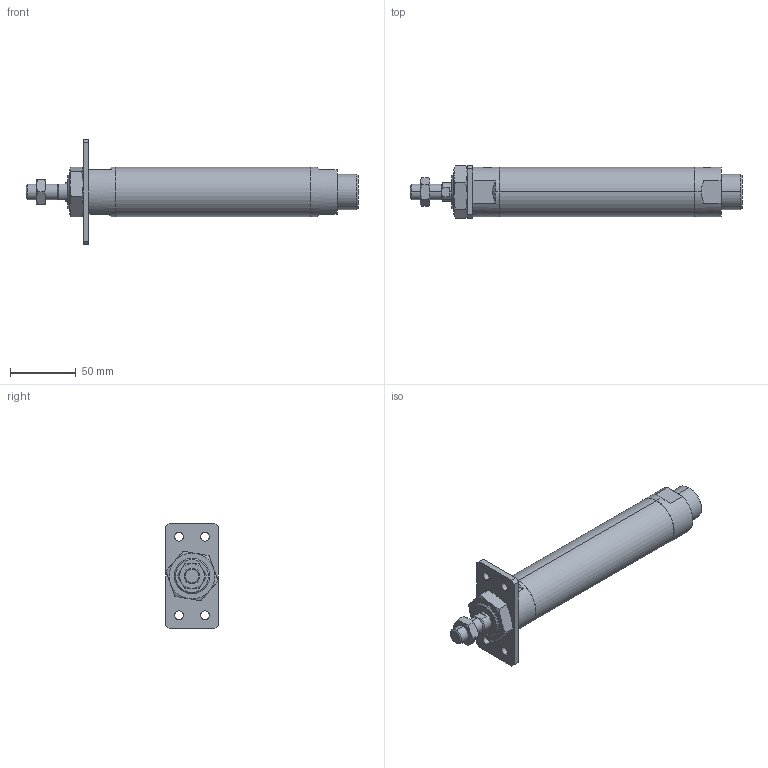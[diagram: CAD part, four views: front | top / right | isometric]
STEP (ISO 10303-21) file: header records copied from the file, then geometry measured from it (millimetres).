
FILE_DESCRIPTION (( 'STEP AP203' ), '1' );
FILE_NAME ('J#2-32-100-A.STEP', '2016-03-08T07:36:16', ( '' ), ( '' ), 'SwSTEP 2.0', 'SolidWorks 2014', '' );
FILE_SCHEMA (( 'CONFIG_CONTROL_DESIGN' ));
Length unit declared in the file: millimetre
Products named in the file (5): J#2-32-100-A; J#2-32-A; J#2-32-100
Assembly tree (4 placements, depth 2):
  J#2-32-100-A
    J#2-32-100
    (unnamed)
    (unnamed)
    J#2-32-A
Bounding box: 253 x 40 x 80 mm (x, y, z)
Volume: 247050.8 mm3; surface area: 40593.8 mm2
Topology: 4 solids, 4 shells, 114 faces, 264 edges, 161 vertices
Faces by surface type: plane 43, cylinder 32, torus 24, cone 15
Entity records: 4214 total; most frequent: CARTESIAN_POINT 1149, DIRECTION 537, ORIENTED_EDGE 520, EDGE_CURVE 260, AXIS2_PLACEMENT_3D 219, VERTEX_POINT 161, EDGE_LOOP 135, FACE_OUTER_BOUND 114
